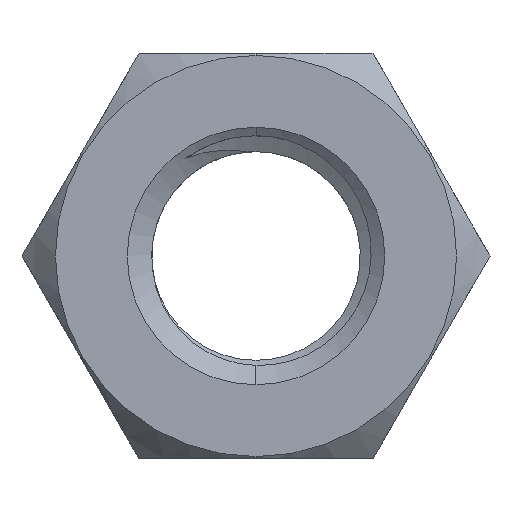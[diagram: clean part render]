
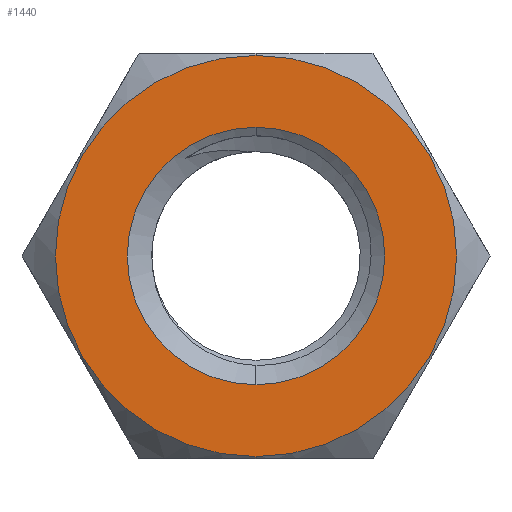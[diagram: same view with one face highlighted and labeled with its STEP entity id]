
A CAD part, front view. The second image highlights one B-rep face of the part: STEP entity #1440.
In plain terms, the highlighted planar face has unit normal (0, -1, 0).
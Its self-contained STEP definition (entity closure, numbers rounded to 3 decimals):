
#85 = EDGE_CURVE ( 'NONE', #2173, #1075, #2413, .T. ) ;
#197 = CIRCLE ( 'NONE', #2154, 5.4 ) ;
#275 = DIRECTION ( 'NONE',  ( 0., 0., -1. ) ) ;
#277 = DIRECTION ( 'NONE',  ( 0., -1., 0. ) ) ;
#485 = DIRECTION ( 'NONE',  ( 0., 0., -1. ) ) ;
#573 = DIRECTION ( 'NONE',  ( 0., 0., 1. ) ) ;
#632 = AXIS2_PLACEMENT_3D ( 'NONE', #1499, #637, #275 ) ;
#637 = DIRECTION ( 'NONE',  ( 0., -1., 0. ) ) ;
#638 = CARTESIAN_POINT ( 'NONE',  ( 0., -4., 5.4 ) ) ;
#880 = CARTESIAN_POINT ( 'NONE',  ( 0., -4., -8.415 ) ) ;
#933 = CARTESIAN_POINT ( 'NONE',  ( 0., -4., -5.4 ) ) ;
#944 = CIRCLE ( 'NONE', #2196, 8.415 ) ;
#1075 = VERTEX_POINT ( 'NONE', #1743 ) ;
#1140 = VERTEX_POINT ( 'NONE', #638 ) ;
#1201 = CARTESIAN_POINT ( 'NONE',  ( 0., -4., 0. ) ) ;
#1237 = VERTEX_POINT ( 'NONE', #933 ) ;
#1345 = EDGE_LOOP ( 'NONE', ( #2011, #2216 ) ) ;
#1402 = ORIENTED_EDGE ( 'NONE', *, *, #1648, .F. ) ;
#1440 = ADVANCED_FACE ( 'NONE', ( #1649, #2475 ), #2275, .F. ) ;
#1499 = CARTESIAN_POINT ( 'NONE',  ( 0., -4., 0. ) ) ;
#1532 = DIRECTION ( 'NONE',  ( 0., 0., -1. ) ) ;
#1648 = EDGE_CURVE ( 'NONE', #1237, #1140, #1712, .T. ) ;
#1649 = FACE_BOUND ( 'NONE', #1792, .T. ) ;
#1712 = CIRCLE ( 'NONE', #632, 5.4 ) ;
#1743 = CARTESIAN_POINT ( 'NONE',  ( 0., -4., 8.415 ) ) ;
#1767 = CARTESIAN_POINT ( 'NONE',  ( 0., -4., 0. ) ) ;
#1792 = EDGE_LOOP ( 'NONE', ( #2148, #1402 ) ) ;
#1914 = CARTESIAN_POINT ( 'NONE',  ( 0., -4., 0. ) ) ;
#2011 = ORIENTED_EDGE ( 'NONE', *, *, #2365, .T. ) ;
#2048 = EDGE_CURVE ( 'NONE', #1140, #1237, #197, .T. ) ;
#2148 = ORIENTED_EDGE ( 'NONE', *, *, #2048, .F. ) ;
#2154 = AXIS2_PLACEMENT_3D ( 'NONE', #2570, #277, #485 ) ;
#2173 = VERTEX_POINT ( 'NONE', #880 ) ;
#2196 = AXIS2_PLACEMENT_3D ( 'NONE', #1767, #2436, #2613 ) ;
#2216 = ORIENTED_EDGE ( 'NONE', *, *, #85, .T. ) ;
#2260 = DIRECTION ( 'NONE',  ( 0., 1., 0. ) ) ;
#2275 = PLANE ( 'NONE',  #2331 ) ;
#2331 = AXIS2_PLACEMENT_3D ( 'NONE', #1914, #2260, #573 ) ;
#2365 = EDGE_CURVE ( 'NONE', #1075, #2173, #944, .T. ) ;
#2413 = CIRCLE ( 'NONE', #2689, 8.415 ) ;
#2436 = DIRECTION ( 'NONE',  ( 0., -1., 0. ) ) ;
#2475 = FACE_OUTER_BOUND ( 'NONE', #1345, .T. ) ;
#2563 = DIRECTION ( 'NONE',  ( 0., -1., 0. ) ) ;
#2570 = CARTESIAN_POINT ( 'NONE',  ( 0., -4., 0. ) ) ;
#2613 = DIRECTION ( 'NONE',  ( 0., 0., -1. ) ) ;
#2689 = AXIS2_PLACEMENT_3D ( 'NONE', #1201, #2563, #1532 ) ;
